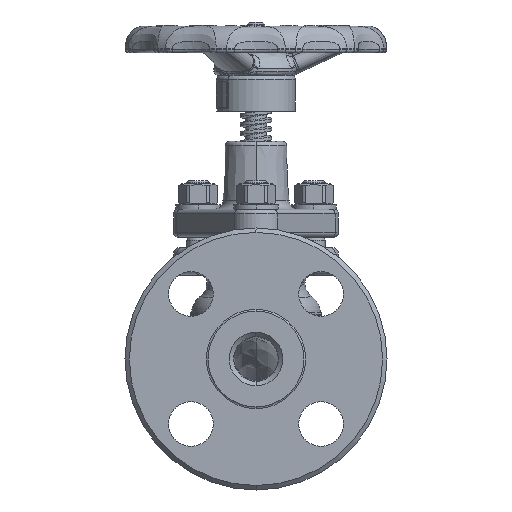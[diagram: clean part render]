
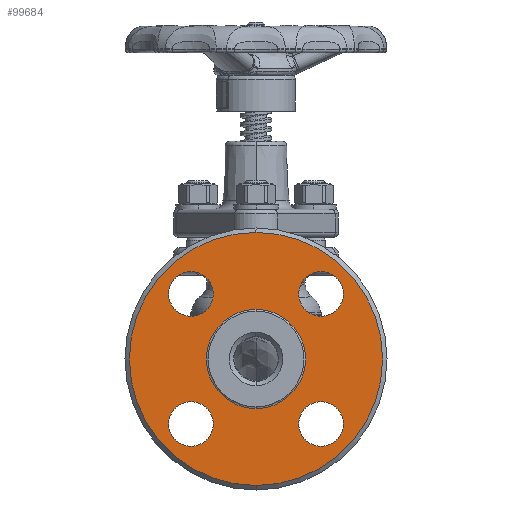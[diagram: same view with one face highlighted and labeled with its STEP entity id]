
A CAD part, left-side view. The second image highlights one B-rep face of the part: STEP entity #99684.
In plain terms, the highlighted planar face has unit normal (-1, 0, 0).
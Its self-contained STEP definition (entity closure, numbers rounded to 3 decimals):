
#30706=CARTESIAN_POINT('',(-87.4,0.,0.));
#30707=DIRECTION('',(1.,0.,0.));
#30708=DIRECTION('',(0.,0.,-1.));
#30709=AXIS2_PLACEMENT_3D('',#30706,#30707,#30708);
#30711=CARTESIAN_POINT('',(-87.4,0.,0.));
#30712=DIRECTION('',(1.,0.,0.));
#30713=DIRECTION('',(0.,0.,1.));
#30714=AXIS2_PLACEMENT_3D('',#30711,#30712,#30713);
#30716=CARTESIAN_POINT('',(-87.4,0.,0.));
#30717=DIRECTION('',(-1.,0.,0.));
#30718=DIRECTION('',(0.,0.,1.));
#30719=AXIS2_PLACEMENT_3D('',#30716,#30717,#30718);
#30721=CARTESIAN_POINT('',(-87.4,0.,0.));
#30722=DIRECTION('',(1.,0.,0.));
#30723=DIRECTION('',(0.,0.,1.));
#30724=AXIS2_PLACEMENT_3D('',#30721,#30722,#30723);
#30726=CARTESIAN_POINT('',(-87.4,-29.168,29.168));
#30727=DIRECTION('',(1.,0.,0.));
#30728=DIRECTION('',(0.,1.,0.));
#30729=AXIS2_PLACEMENT_3D('',#30726,#30727,#30728);
#30731=CARTESIAN_POINT('',(-87.4,-29.168,29.168));
#30732=DIRECTION('',(1.,0.,0.));
#30733=DIRECTION('',(0.,-1.,0.));
#30734=AXIS2_PLACEMENT_3D('',#30731,#30732,#30733);
#30736=CARTESIAN_POINT('',(-87.4,-29.168,-29.168));
#30737=DIRECTION('',(1.,0.,0.));
#30738=DIRECTION('',(0.,1.,0.));
#30739=AXIS2_PLACEMENT_3D('',#30736,#30737,#30738);
#30741=CARTESIAN_POINT('',(-87.4,-29.168,-29.168));
#30742=DIRECTION('',(1.,0.,0.));
#30743=DIRECTION('',(0.,-1.,0.));
#30744=AXIS2_PLACEMENT_3D('',#30741,#30742,#30743);
#30746=CARTESIAN_POINT('',(-87.4,29.168,-29.168));
#30747=DIRECTION('',(1.,0.,0.));
#30748=DIRECTION('',(0.,1.,0.));
#30749=AXIS2_PLACEMENT_3D('',#30746,#30747,#30748);
#30751=CARTESIAN_POINT('',(-87.4,29.168,-29.168));
#30752=DIRECTION('',(1.,0.,0.));
#30753=DIRECTION('',(0.,-1.,0.));
#30754=AXIS2_PLACEMENT_3D('',#30751,#30752,#30753);
#30756=CARTESIAN_POINT('',(-87.4,29.168,29.168));
#30757=DIRECTION('',(1.,0.,0.));
#30758=DIRECTION('',(0.,1.,0.));
#30759=AXIS2_PLACEMENT_3D('',#30756,#30757,#30758);
#30761=CARTESIAN_POINT('',(-87.4,29.168,29.168));
#30762=DIRECTION('',(1.,0.,0.));
#30763=DIRECTION('',(0.,-1.,0.));
#30764=AXIS2_PLACEMENT_3D('',#30761,#30762,#30763);
#39549=CARTESIAN_POINT('',(-87.4,0.,-56.75));
#39550=CARTESIAN_POINT('',(-87.4,0.,56.75));
#39551=VERTEX_POINT('',#39549);
#39552=VERTEX_POINT('',#39550);
#39557=CARTESIAN_POINT('',(-87.4,-19.168,29.168));
#39558=CARTESIAN_POINT('',(-87.4,-39.168,29.168));
#39559=VERTEX_POINT('',#39557);
#39560=VERTEX_POINT('',#39558);
#39565=CARTESIAN_POINT('',(-87.4,-19.168,-29.168));
#39566=CARTESIAN_POINT('',(-87.4,-39.168,-29.168));
#39567=VERTEX_POINT('',#39565);
#39568=VERTEX_POINT('',#39566);
#39573=CARTESIAN_POINT('',(-87.4,39.168,-29.168));
#39574=CARTESIAN_POINT('',(-87.4,19.168,-29.168));
#39575=VERTEX_POINT('',#39573);
#39576=VERTEX_POINT('',#39574);
#39581=CARTESIAN_POINT('',(-87.4,39.168,29.168));
#39582=CARTESIAN_POINT('',(-87.4,19.168,29.168));
#39583=VERTEX_POINT('',#39581);
#39584=VERTEX_POINT('',#39582);
#40529=CARTESIAN_POINT('',(-87.4,0.,22.25));
#40530=VERTEX_POINT('',#40529);
#40533=CARTESIAN_POINT('',(-87.4,0.,-22.25));
#40534=VERTEX_POINT('',#40533);
#99645=CARTESIAN_POINT('',(-87.4,0.,0.));
#99646=DIRECTION('',(-1.,0.,0.));
#99647=DIRECTION('',(0.,0.,1.));
#99648=AXIS2_PLACEMENT_3D('',#99645,#99646,#99647);
#99649=PLANE('',#99648);
#99650=ORIENTED_EDGE('',*,*,#99599,.T.);
#99651=ORIENTED_EDGE('',*,*,#99614,.T.);
#99652=EDGE_LOOP('',(#99650,#99651));
#99653=FACE_OUTER_BOUND('',#99652,.F.);
#99655=ORIENTED_EDGE('',*,*,#99654,.T.);
#99657=ORIENTED_EDGE('',*,*,#99656,.F.);
#99658=EDGE_LOOP('',(#99655,#99657));
#99659=FACE_BOUND('',#99658,.F.);
#99661=ORIENTED_EDGE('',*,*,#99660,.F.);
#99663=ORIENTED_EDGE('',*,*,#99662,.F.);
#99664=EDGE_LOOP('',(#99661,#99663));
#99665=FACE_BOUND('',#99664,.F.);
#99667=ORIENTED_EDGE('',*,*,#99666,.F.);
#99669=ORIENTED_EDGE('',*,*,#99668,.F.);
#99670=EDGE_LOOP('',(#99667,#99669));
#99671=FACE_BOUND('',#99670,.F.);
#99673=ORIENTED_EDGE('',*,*,#99672,.F.);
#99675=ORIENTED_EDGE('',*,*,#99674,.F.);
#99676=EDGE_LOOP('',(#99673,#99675));
#99677=FACE_BOUND('',#99676,.F.);
#99679=ORIENTED_EDGE('',*,*,#99678,.F.);
#99681=ORIENTED_EDGE('',*,*,#99680,.F.);
#99682=EDGE_LOOP('',(#99679,#99681));
#99683=FACE_BOUND('',#99682,.F.);
#99684=ADVANCED_FACE('',(#99653,#99659,#99665,#99671,#99677,#99683),#99649,.T.);
#30710=CIRCLE('',#30709,56.75);
#30715=CIRCLE('',#30714,56.75);
#30720=CIRCLE('',#30719,22.25);
#30725=CIRCLE('',#30724,22.25);
#30730=CIRCLE('',#30729,10.);
#30735=CIRCLE('',#30734,10.);
#30740=CIRCLE('',#30739,10.);
#30745=CIRCLE('',#30744,10.);
#30750=CIRCLE('',#30749,10.);
#30755=CIRCLE('',#30754,10.);
#30760=CIRCLE('',#30759,10.);
#30765=CIRCLE('',#30764,10.);
#99599=EDGE_CURVE('',#39551,#39552,#30710,.T.);
#99614=EDGE_CURVE('',#39552,#39551,#30715,.T.);
#99654=EDGE_CURVE('',#40530,#40534,#30720,.T.);
#99656=EDGE_CURVE('',#40530,#40534,#30725,.T.);
#99660=EDGE_CURVE('',#39559,#39560,#30730,.T.);
#99662=EDGE_CURVE('',#39560,#39559,#30735,.T.);
#99666=EDGE_CURVE('',#39567,#39568,#30740,.T.);
#99668=EDGE_CURVE('',#39568,#39567,#30745,.T.);
#99672=EDGE_CURVE('',#39575,#39576,#30750,.T.);
#99674=EDGE_CURVE('',#39576,#39575,#30755,.T.);
#99678=EDGE_CURVE('',#39583,#39584,#30760,.T.);
#99680=EDGE_CURVE('',#39584,#39583,#30765,.T.);
